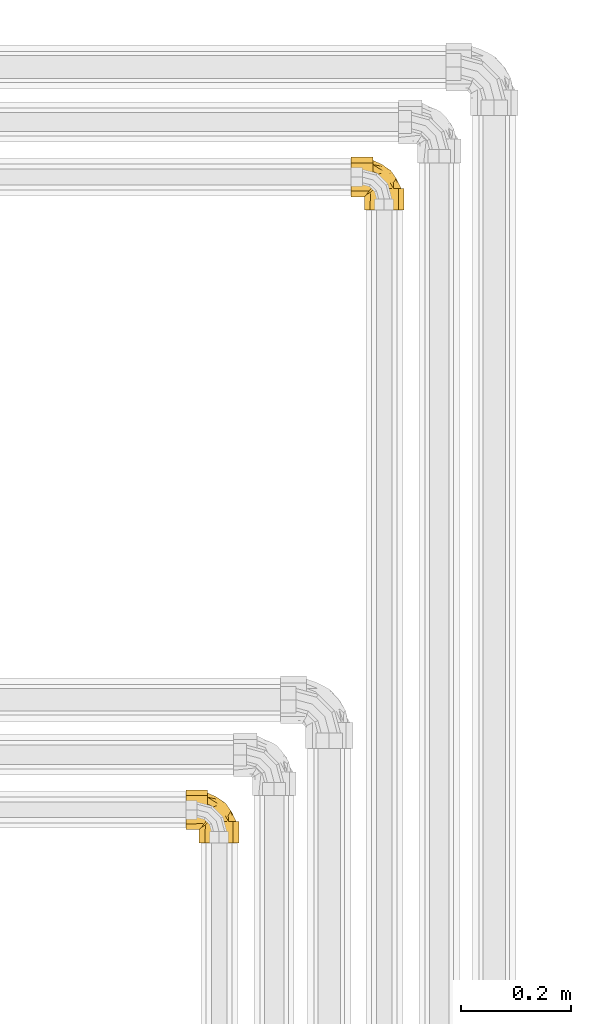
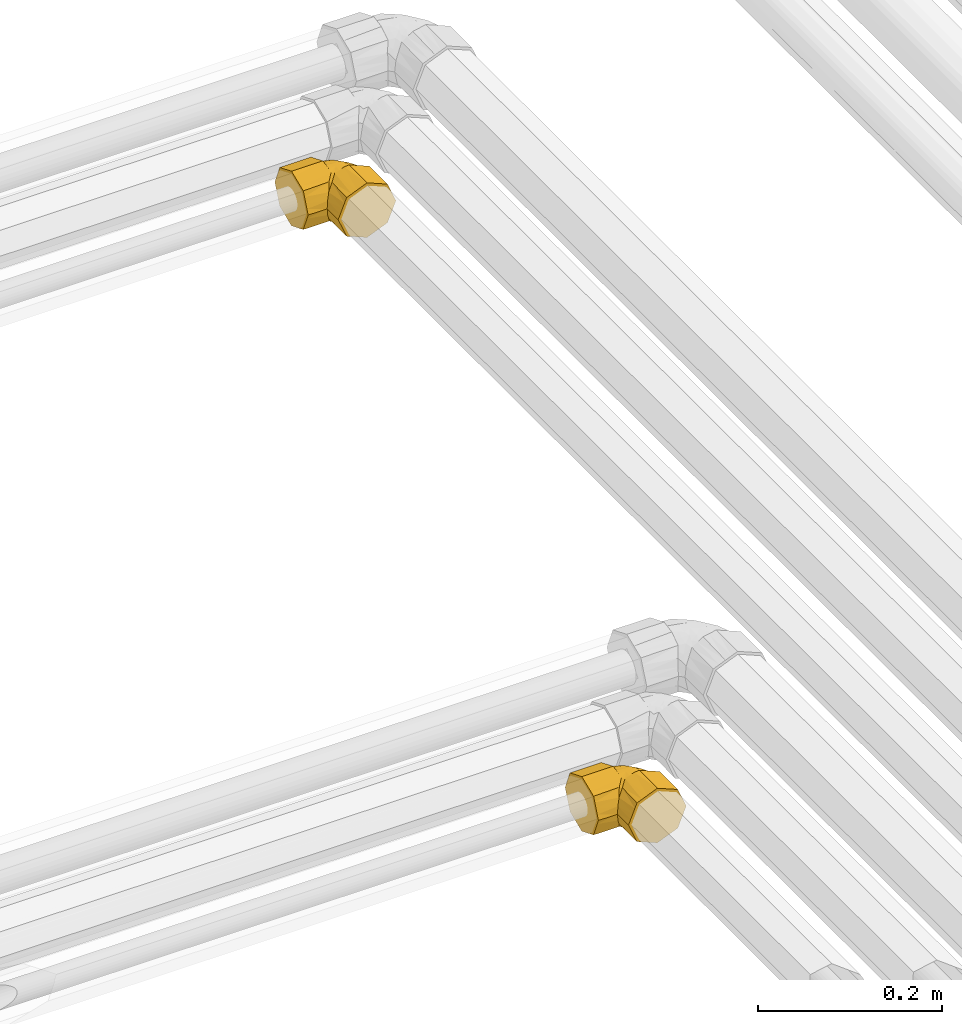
# One storey, part 261 of 652: 2 coverings.
"""IFC2X3 building model written with IfcOpenShell, lengths in millimetres."""

from ifc_helpers import new_model, entity, si_unit, converted_unit, direction, frame, origin, place, context, subcontext, project, spatial, faceted_brep, material, type_object, element, save


model = new_model("IFC2X3")

# Units and contexts
model_context = context("Model", 3, precision=0.01, world=frame((0.0, 0.0, 308426.39999999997)), true_north=direction((6.123233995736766e-17, 1.0)))
plan_context = context("Plan", 3, precision=0.01, world=frame((0.0, 0.0, 308426.39999999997)), true_north=direction((6.123233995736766e-17, 1.0)))
body_context = subcontext(model_context, "Body", "Model", "MODEL_VIEW")
ifc_project = project(units=[si_unit("LENGTHUNIT", "METRE", prefix="MILLI"), si_unit("AREAUNIT", "SQUARE_METRE"), si_unit("VOLUMEUNIT", "CUBIC_METRE"), converted_unit("PLANEANGLEUNIT", "DEGREE", entity("IfcPlaneAngleMeasure", 0.017453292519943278), si_unit("PLANEANGLEUNIT", "RADIAN"), dimensions=[0, 0, 0, 0, 0, 0, 0])], contexts=[model_context, plan_context])

# Site, building, storey
site_placement = place(None, origin())
site = spatial("IfcSite", under=ifc_project, at=site_placement, Name="Default", CompositionType="ELEMENT")
building_placement = place(site_placement, origin())
building = spatial("IfcBuilding", under=site, at=building_placement, CompositionType="ELEMENT")
storey_placement = place(building_placement, frame((0.0, 0.0, 1730.6999999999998)))
storey = spatial("IfcBuildingStorey", under=building, at=storey_placement, Name="EG_Produktion_FFB", CompositionType="ELEMENT", Elevation=1730.6999999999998)

# Coverings
ifc_material = material(Name="Dämmung - Armaflex-Schlauch")
covering_type = type_object("IfcCoveringType", Name="Rohrdämmung außen:Armaflex-Schlauch", PredefinedType="INSULATION")
covering_1_placement = place(storey_placement, frame((76719.94925000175, 60839.94924999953, 3862.2027277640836)))
element("IfcCovering", 1, at=covering_1_placement, inside=storey, type_object=covering_type, material=ifc_material, Name="Rohrdämmung außen:Armaflex-Schlauch", ObjectType="Rohrdämmung außen:Armaflex-Schlauch", PredefinedType="INSULATION", context=body_context, shape_type="Brep", body=[
    faceted_brep([(47.84268255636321, 39.259249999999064, 3.7157832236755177), (42.20950377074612, 39.259249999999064, 6.2968795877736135), (48.65740674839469, 39.259249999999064, 4.9882123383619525), (55.22156502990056, 39.259249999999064, 4.509772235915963), (62.98224402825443, 39.259249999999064, 7.878988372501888), (70.74292302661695, 39.259249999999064, 11.248204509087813), (76.76873209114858, 39.259249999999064, 13.864245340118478), (82.79454115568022, 39.259249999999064, 16.48028617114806), (86.80982431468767, 39.259249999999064, 27.138779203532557), (90.8251074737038, 39.259249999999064, 37.797272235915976), (87.38848086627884, 39.259249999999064, 44.42687530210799), (83.95185425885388, 39.259249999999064, 51.0564783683), (80.51522765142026, 39.259249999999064, 57.68608143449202), (77.07860104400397, 39.259249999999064, 64.31568450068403), (70.25921848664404, 39.259249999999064, 66.42763594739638), (63.439835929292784, 39.259249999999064, 68.53958739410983), (55.22156502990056, 39.259249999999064, 71.08477223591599), (48.65740674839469, 39.259249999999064, 70.60633213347), (42.20950377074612, 39.259249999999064, 69.29766488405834), (53.8441619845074, 39.259249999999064, 73.46326541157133), (60.05075000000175, 39.259249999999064, 73.99927223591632), (67.66113964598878, 39.259249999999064, 70.84694562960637), (72.85008984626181, 39.259249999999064, 68.69761208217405), (79.24975976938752, 39.2592499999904, 66.04678200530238), (85.64942969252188, 39.259249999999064, 63.39595192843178), (88.30025976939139, 39.259249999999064, 56.99628200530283), (90.95108984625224, 39.259249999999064, 50.59661208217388), (93.60191992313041, 39.259249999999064, 44.19694215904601), (96.25274999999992, 39.259249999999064, 37.797272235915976), (93.1004233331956, 39.259249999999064, 30.18688244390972), (90.95108984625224, 39.259249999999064, 24.99793238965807), (88.30025976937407, 39.259249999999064, 18.598262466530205), (85.64942969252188, 39.259249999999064, 12.198592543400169), (79.24975976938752, 39.259249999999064, 9.547762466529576), (72.85008984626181, 39.259249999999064, 6.896932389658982), (66.45041992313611, 39.259249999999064, 4.246102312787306), (60.05075000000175, 39.259249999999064, 1.595272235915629), (34.452070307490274, 0.0, 63.39595192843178), (31.801240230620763, 0.0, 56.99628200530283), (29.150410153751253, 0.0, 50.59661208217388), (26.499580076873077, 0.0, 44.19694215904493), (23.848750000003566, 0.0, 37.797272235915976), (26.499580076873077, 0.0, 31.397602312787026), (29.150410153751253, 0.0, 24.99793238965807), (31.801240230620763, 0.0, 18.59826246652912), (34.452070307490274, 0.0, 12.198592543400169), (40.851740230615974, 0.0, 9.547762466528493), (47.25141015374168, 0.0, 6.896932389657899), (53.65108007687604, 0.0, 4.246102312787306), (60.05075000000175, 0.0, 1.595272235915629), (66.45041992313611, 0.0, 4.246102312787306), (72.85008984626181, 0.0, 6.896932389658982), (79.24975976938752, 0.0, 9.547762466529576), (85.64942969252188, 0.0, 12.198592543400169), (89.94809634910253, 0.0, 22.576491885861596), (93.10042317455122, 0.0, 30.186882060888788), (96.25274999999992, 0.0, 37.797272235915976), (93.60191992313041, 0.0, 44.19694215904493), (90.95108984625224, 0.0, 50.59661208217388), (88.30025976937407, 0.0, 56.99628200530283), (85.64942969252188, 0.0, 63.39595192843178), (75.27153027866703, 0.0, 67.69461861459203), (67.66114013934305, 0.0, 70.84694542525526), (60.05075000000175, 0.0, 73.99927223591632), (53.65108007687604, 0.0, 71.34844215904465), (47.25141015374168, 0.0, 68.69761208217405), (40.851740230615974, 0.0, 66.04678200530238), (34.91818234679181, 32.46668914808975, 63.853727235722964), (25.075941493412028, 25.075941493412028, 47.143264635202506), (28.426678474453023, 28.426678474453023, 55.41836482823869), (23.848750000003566, 23.848750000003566, 37.797272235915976), (34.91818234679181, 32.46668914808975, 11.74081723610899), (25.075941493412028, 25.075941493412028, 28.451279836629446), (28.426678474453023, 28.426678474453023, 20.176179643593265), (39.259249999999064, 60.05075000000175, 1.595272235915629), (39.25925000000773, 67.66113984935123, 4.747598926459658), (39.259249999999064, 72.85008984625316, 6.896932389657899), (39.2592499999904, 79.24975976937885, 9.547762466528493), (39.259249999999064, 85.64942969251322, 12.198592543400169), (39.259249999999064, 88.30025976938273, 18.59826246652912), (39.259249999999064, 90.9510898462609, 24.99793238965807), (39.259249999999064, 93.60191992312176, 31.397602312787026), (39.259249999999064, 96.25274999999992, 37.797272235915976), (39.259249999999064, 93.10042349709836, 45.40766163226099), (39.259249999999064, 90.9510898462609, 50.59661208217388), (39.259249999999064, 88.30025976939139, 56.99628200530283), (39.259249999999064, 85.64942969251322, 63.39595192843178), (39.259249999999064, 79.24975976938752, 66.04678200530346), (39.259249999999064, 72.85008984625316, 68.69761208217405), (39.259249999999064, 66.45041992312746, 71.34844215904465), (39.259249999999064, 60.05075000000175, 73.99927223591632), (39.259249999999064, 47.8439605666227, 71.8792190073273), (39.259249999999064, 42.20950377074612, 69.29766488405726), (39.259249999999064, 48.65740674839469, 70.60633213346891), (39.259249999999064, 55.22156502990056, 71.08477223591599), (39.2592499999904, 62.98153911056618, 67.71445911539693), (39.25925000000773, 70.74151319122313, 64.34414599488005), (39.259249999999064, 76.77152019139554, 61.72519243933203), (39.259249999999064, 82.80152719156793, 59.10623888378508), (39.259249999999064, 86.8133173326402, 48.451755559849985), (39.259249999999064, 90.82510747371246, 37.797272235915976), (39.259249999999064, 87.38600173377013, 31.165885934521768), (39.25925000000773, 83.94689599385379, 24.53449963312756), (39.2592499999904, 80.50779025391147, 17.903113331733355), (39.259249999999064, 77.0686845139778, 11.271727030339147), (39.259249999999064, 70.25457765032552, 9.162676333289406), (39.25925000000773, 63.440470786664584, 7.053625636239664), (39.259249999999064, 55.22156502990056, 4.509772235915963), (39.259249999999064, 48.65740674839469, 4.988212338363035), (39.259249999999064, 42.20950377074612, 6.296879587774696), (39.259249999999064, 53.84468293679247, 2.1311884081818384), (0.0, 85.64942969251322, 63.39595192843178), (0.0, 89.94809658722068, 53.01805201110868), (0.0, 93.10042329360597, 45.40766212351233), (0.0, 96.25274999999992, 37.797272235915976), (0.0, 93.60191992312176, 31.397602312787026), (0.0, 90.9510898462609, 24.99793238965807), (0.0, 88.30025976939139, 18.59826246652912), (0.0, 85.64942969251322, 12.198592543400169), (0.0, 75.2715303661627, 7.899925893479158), (0.0, 67.66114018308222, 4.747599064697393), (0.0, 60.05075000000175, 1.595272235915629), (0.0, 53.65108007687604, 4.246102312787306), (0.0, 47.25141015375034, 6.896932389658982), (0.0, 40.851740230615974, 9.547762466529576), (0.0, 34.45207030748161, 12.198592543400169), (0.0, 31.801240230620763, 18.598262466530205), (0.0, 29.150410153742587, 24.99793238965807), (0.0, 26.499580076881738, 31.397602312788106), (0.0, 23.848750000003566, 37.797272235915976), (0.0, 26.499580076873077, 44.19694215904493), (0.0, 29.150410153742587, 50.59661208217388), (0.0, 31.801240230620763, 56.99628200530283), (0.0, 34.45207030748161, 63.39595192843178), (0.0, 40.851740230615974, 66.04678200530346), (0.0, 47.25141015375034, 68.69761208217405), (0.0, 53.65108007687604, 71.34844215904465), (0.0, 60.05075000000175, 73.99927223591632), (0.0, 66.45041992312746, 71.34844215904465), (0.0, 72.85008984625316, 68.69761208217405), (0.0, 79.24975976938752, 66.04678200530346), (32.46931160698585, 34.92195481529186, 63.857365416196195), (32.46931160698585, 34.92195481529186, 11.737179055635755), (64.47336868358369, 49.210183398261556, 68.41675007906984), (53.54260043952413, 54.63531521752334, 70.09494488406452), (48.39608948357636, 48.39608948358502, 71.08477223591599), (51.69618600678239, 43.978455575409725, 71.08477223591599), (43.978455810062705, 51.69618583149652, 71.08477223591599), (49.26703766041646, 65.06955237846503, 68.18497914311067), (70.8833285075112, 66.1494084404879, 54.93584498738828), (80.75349698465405, 58.59034686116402, 47.557895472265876), (68.06292306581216, 73.81910229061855, 46.969712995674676), (76.4287553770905, 49.86476535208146, 61.16915130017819), (68.9353156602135, 59.52853294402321, 62.09740281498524), (70.34021869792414, 50.389767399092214, 65.36649404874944), (56.04623238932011, 79.53115199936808, 53.32066831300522), (56.37699654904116, 72.05314656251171, 61.519468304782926), (54.931846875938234, 67.4364402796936, 65.29725071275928), (79.8641062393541, 53.71476365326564, 54.895502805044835), (55.68952897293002, 83.0503859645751, 45.82149324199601), (71.93390646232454, 71.9339064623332, 37.797272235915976), (82.58887454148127, 53.504828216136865, 37.797272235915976), (53.50482934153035, 82.58887389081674, 37.797272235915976), (59.635312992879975, 59.256858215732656, 67.18830204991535), (48.39608948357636, 48.39608948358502, 4.509772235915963), (51.69618600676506, 43.97845557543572, 4.509772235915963), (43.97845581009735, 51.69618583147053, 4.509772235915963), (54.64187234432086, 53.536207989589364, 5.499665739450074), (59.532384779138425, 68.93208500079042, 13.497052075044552), (72.055892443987, 56.377531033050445, 14.077594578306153), (67.43859640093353, 54.931613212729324, 10.29838444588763), (66.13891003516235, 70.89302392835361, 20.658922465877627), (79.54021097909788, 56.04646412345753, 22.288823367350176), (73.80443609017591, 68.07919867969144, 28.624479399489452), (83.03128998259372, 55.729373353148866, 29.784989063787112), (65.06981549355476, 49.26685337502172, 7.409619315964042), (58.572069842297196, 80.76404119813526, 28.033804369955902), (49.861777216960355, 76.4220800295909, 14.41799363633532), (50.38826994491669, 70.3405712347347, 10.227732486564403), (53.706335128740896, 79.86412378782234, 20.692178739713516), (49.211823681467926, 64.46975673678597, 7.176889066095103), (59.257135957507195, 59.635610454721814, 8.406458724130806)], [[[0, 1, 2, 3, 4, 5, 6, 7, 8, 9, 10, 11, 12, 13, 14, 15, 16, 17, 18, 19, 20, 21, 22, 23, 24, 25, 26, 27, 28, 29, 30, 31, 32, 33, 34, 35, 36]], [[37, 38, 39, 40, 41, 42, 43, 44, 45, 46, 47, 48, 49, 50, 51, 52, 53, 54, 55, 56, 57, 58, 59, 60, 61, 62, 63, 64, 65, 66]], [[38, 37, 67]], [[66, 67, 37]], [[67, 66, 18]], [[68, 39, 69]], [[69, 39, 38]], [[69, 38, 67]], [[65, 19, 18]], [[20, 19, 63]], [[40, 70, 41]], [[19, 65, 64, 63]], [[40, 39, 68]], [[70, 40, 68]], [[66, 65, 18]], [[63, 62, 61, 60, 24, 23, 22, 21, 20]], [[24, 60, 59, 58, 57, 56, 28, 27, 26, 25]], [[29, 28, 56, 55, 54, 53, 32, 31, 30]], [[32, 53, 52, 51, 50, 49, 36, 35, 34, 33]], [[71, 1, 46]], [[0, 47, 1]], [[1, 47, 46]], [[72, 43, 42]], [[71, 46, 45]], [[44, 71, 45]], [[36, 48, 0]], [[70, 42, 41]], [[48, 47, 0]], [[73, 43, 72]], [[71, 44, 73]], [[42, 70, 72]], [[48, 36, 49]], [[44, 43, 73]], [[74, 75, 76, 77, 78, 79, 80, 81, 82, 83, 84, 85, 86, 87, 88, 89, 90, 91, 92, 93, 94, 95, 96, 97, 98, 99, 100, 101, 102, 103, 104, 105, 106, 107, 108, 109, 110]], [[111, 112, 113, 114, 115, 116, 117, 118, 119, 120, 121, 122, 123, 124, 125, 126, 127, 128, 129, 130, 131, 132, 133, 134, 135, 136, 137, 138, 139, 140]], [[114, 113, 112, 111, 86, 85, 84, 83, 82]], [[86, 111, 140, 139, 138, 137, 90, 89, 88, 87]], [[141, 92, 134]], [[91, 135, 92]], [[68, 131, 130]], [[134, 133, 141]], [[132, 141, 133]], [[136, 135, 91]], [[90, 136, 91]], [[70, 130, 129]], [[136, 90, 137]], [[69, 131, 68]], [[141, 132, 69]], [[130, 70, 68]], [[92, 135, 134]], [[132, 131, 69]], [[126, 125, 142]], [[124, 142, 125]], [[142, 124, 109]], [[72, 127, 73]], [[73, 127, 126]], [[73, 126, 142]], [[123, 110, 109]], [[74, 110, 121]], [[128, 70, 129]], [[110, 123, 122, 121]], [[128, 127, 72]], [[70, 128, 72]], [[124, 123, 109]], [[75, 74, 121, 120, 119, 118, 78, 77, 76]], [[78, 118, 117, 116, 115, 114, 82, 81, 80, 79]], [[15, 143, 144]], [[144, 145, 146, 16]], [[144, 94, 147, 145]], [[96, 95, 148]], [[149, 150, 151]], [[152, 153, 154]], [[149, 155, 156]], [[153, 156, 157]], [[152, 158, 153]], [[16, 15, 144]], [[151, 159, 155]], [[96, 148, 157]], [[151, 155, 149]], [[153, 149, 156]], [[156, 97, 157]], [[160, 159, 151]], [[98, 156, 155]], [[99, 98, 155]], [[160, 150, 161]], [[99, 159, 100]], [[159, 160, 162, 100]], [[160, 151, 150]], [[150, 11, 10]], [[150, 149, 158]], [[10, 161, 150]], [[9, 161, 10]], [[99, 155, 159]], [[143, 15, 14]], [[152, 13, 12]], [[158, 12, 11]], [[150, 158, 11]], [[153, 158, 149]], [[158, 152, 12]], [[154, 163, 143]], [[154, 143, 14]], [[154, 13, 152]], [[143, 163, 144]], [[148, 144, 163]], [[94, 144, 95]], [[154, 14, 13]], [[163, 154, 153]], [[144, 148, 95]], [[157, 148, 163]], [[153, 157, 163]], [[156, 98, 97]], [[96, 157, 97]], [[18, 17, 145]], [[67, 141, 69]], [[141, 67, 18]], [[17, 16, 146, 145]], [[147, 94, 93, 145]], [[141, 18, 92]], [[93, 92, 145]], [[92, 18, 145]], [[164, 1, 109]], [[2, 164, 165, 3]], [[164, 2, 1]], [[1, 71, 142]], [[142, 109, 1]], [[108, 107, 166, 164]], [[108, 164, 109]], [[142, 71, 73]], [[107, 106, 167]], [[168, 169, 170]], [[171, 172, 169]], [[173, 172, 171]], [[167, 164, 166, 107]], [[173, 174, 172]], [[175, 170, 5]], [[168, 171, 169]], [[167, 3, 165, 164]], [[176, 173, 171]], [[177, 168, 178]], [[5, 4, 175]], [[177, 179, 168]], [[106, 180, 167]], [[169, 6, 170]], [[160, 174, 173]], [[7, 169, 172]], [[8, 7, 172]], [[160, 176, 162]], [[8, 174, 9]], [[174, 160, 161, 9]], [[160, 173, 176]], [[176, 102, 101]], [[176, 171, 179]], [[101, 162, 176]], [[100, 162, 101]], [[8, 172, 174]], [[180, 106, 105]], [[177, 104, 103]], [[179, 103, 102]], [[176, 179, 102]], [[168, 179, 171]], [[179, 177, 103]], [[178, 181, 180]], [[178, 180, 105]], [[178, 104, 177]], [[180, 181, 167]], [[175, 167, 181]], [[3, 167, 4]], [[178, 105, 104]], [[181, 178, 168]], [[167, 175, 4]], [[170, 175, 181]], [[168, 170, 181]], [[169, 7, 6]], [[5, 170, 6]]]),
])
covering_2_placement = place(storey_placement, frame((76419.94925000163, 59689.94924999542, 3862.2027277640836)))
element("IfcCovering", 2, at=covering_2_placement, inside=storey, type_object=covering_type, material=ifc_material, Name="Rohrdämmung außen:Armaflex-Schlauch", ObjectType="Rohrdämmung außen:Armaflex-Schlauch", PredefinedType="INSULATION", context=body_context, shape_type="Brep", body=[
    faceted_brep([(47.84396056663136, 39.259249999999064, 3.715325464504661), (42.20950377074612, 39.259249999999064, 6.2968795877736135), (48.65740674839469, 39.259249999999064, 4.9882123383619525), (55.22156502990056, 39.259249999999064, 4.509772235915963), (62.98224402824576, 39.259249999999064, 7.878988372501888), (70.7429230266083, 39.259249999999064, 11.248204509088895), (76.76873209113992, 39.259249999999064, 13.864245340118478), (82.79454115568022, 39.259249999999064, 16.48028617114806), (86.80982431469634, 39.259249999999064, 27.138779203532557), (90.8251074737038, 39.259249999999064, 37.797272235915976), (87.38600173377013, 39.259249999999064, 44.428658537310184), (83.94689599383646, 39.259249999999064, 51.06004483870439), (80.50779025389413, 39.259249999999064, 57.691431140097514), (77.06868451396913, 39.259249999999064, 64.32281744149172), (70.25457778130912, 39.259249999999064, 66.43186809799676), (63.44047104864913, 39.259249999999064, 68.54091875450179), (55.22156502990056, 39.259249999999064, 71.08477223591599), (48.65740674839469, 39.259249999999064, 70.60633213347), (42.20950377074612, 39.259249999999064, 69.29766488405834), (53.84468293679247, 39.259249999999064, 73.46335606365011), (60.05075000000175, 39.259249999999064, 73.99927223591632), (67.66113964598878, 39.259249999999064, 70.84694562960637), (72.85008984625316, 39.259249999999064, 68.69761208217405), (79.24975976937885, 39.259249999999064, 66.04678200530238), (85.64942969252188, 39.259249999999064, 63.39595192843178), (88.30025976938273, 39.259249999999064, 56.99628200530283), (90.9510898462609, 39.259249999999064, 50.59661208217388), (93.60191992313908, 39.259249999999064, 44.19694215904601), (96.25274999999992, 39.259249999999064, 37.797272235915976), (93.10042333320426, 39.259249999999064, 30.18688244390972), (90.95108984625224, 39.259249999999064, 24.99793238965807), (88.30025976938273, 39.259249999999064, 18.598262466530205), (85.64942969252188, 39.259249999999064, 12.198592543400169), (79.24975976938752, 39.259249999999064, 9.547762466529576), (72.85008984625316, 39.259249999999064, 6.896932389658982), (66.45041992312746, 39.259249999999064, 4.246102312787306), (60.05075000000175, 39.259249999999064, 1.595272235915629), (34.452070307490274, 0.0, 63.39595192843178), (31.801240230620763, 0.0, 56.99628200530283), (29.150410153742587, 0.0, 50.59661208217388), (26.499580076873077, 0.0, 44.19694215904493), (23.848750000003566, 0.0, 37.797272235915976), (26.499580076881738, 0.0, 31.397602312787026), (29.150410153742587, 0.0, 24.99793238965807), (31.801240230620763, 0.0, 18.59826246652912), (34.452070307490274, 0.0, 12.198592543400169), (40.851740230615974, 0.0, 9.547762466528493), (47.25141015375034, 0.0, 6.896932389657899), (53.65108007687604, 0.0, 4.246102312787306), (60.05075000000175, 0.0, 1.595272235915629), (66.45041992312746, 0.0, 4.246102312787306), (72.85008984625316, 0.0, 6.896932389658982), (79.24975976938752, 0.0, 9.547762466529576), (85.64942969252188, 0.0, 12.198592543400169), (89.94809634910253, 0.0, 22.576491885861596), (93.10042317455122, 0.0, 30.186882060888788), (96.25274999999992, 0.0, 37.797272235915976), (93.60191992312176, 0.0, 44.19694215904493), (90.95108984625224, 0.0, 50.59661208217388), (88.30025976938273, 0.0, 56.99628200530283), (85.64942969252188, 0.0, 63.39595192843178), (75.27153027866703, 0.0, 67.69461861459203), (67.66114013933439, 0.0, 70.84694542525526), (60.05075000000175, 0.0, 73.99927223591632), (53.65108007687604, 0.0, 71.34844215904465), (47.25141015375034, 0.0, 68.69761208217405), (40.851740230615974, 0.0, 66.04678200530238), (34.91818234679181, 32.46668914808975, 63.853727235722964), (25.075941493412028, 25.075941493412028, 47.143264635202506), (28.426678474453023, 28.426678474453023, 55.41836482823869), (23.848750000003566, 23.848750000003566, 37.797272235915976), (34.91818234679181, 32.46668914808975, 11.74081723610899), (25.075941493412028, 25.075941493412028, 28.451279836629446), (28.426678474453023, 28.426678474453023, 20.176179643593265), (39.259249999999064, 60.05075000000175, 1.595272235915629), (39.259249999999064, 67.66113984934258, 4.747598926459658), (39.259249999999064, 72.85008984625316, 6.896932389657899), (39.2592499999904, 79.24975976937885, 9.547762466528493), (39.259249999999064, 85.64942969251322, 12.198592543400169), (39.259249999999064, 88.30025976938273, 18.59826246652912), (39.259249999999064, 90.9510898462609, 24.99793238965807), (39.259249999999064, 93.60191992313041, 31.397602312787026), (39.259249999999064, 96.25274999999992, 37.797272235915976), (39.259249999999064, 93.10042349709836, 45.40766163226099), (39.259249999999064, 90.9510898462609, 50.59661208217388), (39.25925000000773, 88.30025976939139, 56.99628200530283), (39.259249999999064, 85.64942969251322, 63.39595192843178), (39.259249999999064, 79.24975976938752, 66.04678200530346), (39.259249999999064, 72.85008984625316, 68.69761208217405), (39.259249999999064, 66.45041992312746, 71.34844215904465), (39.259249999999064, 60.05075000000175, 73.99927223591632), (39.259249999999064, 47.8439605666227, 71.8792190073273), (39.259249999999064, 42.20950377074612, 69.29766488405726), (39.259249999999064, 48.65740674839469, 70.60633213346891), (39.259249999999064, 55.22156502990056, 71.08477223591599), (39.259249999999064, 62.98224379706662, 67.71555619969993), (39.259249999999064, 70.74292256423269, 64.34634016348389), (39.259249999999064, 76.76873185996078, 61.73029923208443), (39.259249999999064, 82.79454115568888, 59.11425830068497), (39.259249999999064, 86.80982431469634, 48.455765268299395), (39.259249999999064, 90.82510747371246, 37.797272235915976), (39.259249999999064, 87.38600173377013, 31.165885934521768), (39.259249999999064, 83.94689599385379, 24.53449963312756), (39.2592499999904, 80.50779025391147, 17.903113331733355), (39.259249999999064, 77.0686845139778, 11.271727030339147), (39.259249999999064, 70.25457765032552, 9.162676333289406), (39.259249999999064, 63.440470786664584, 7.053625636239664), (39.259249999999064, 55.22156502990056, 4.509772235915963), (39.259249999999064, 48.65740674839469, 4.988212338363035), (39.259249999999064, 42.20950377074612, 6.296879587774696), (39.259249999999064, 53.84468293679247, 2.1311884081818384), (0.0, 85.64942969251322, 63.39595192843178), (0.0, 89.94809658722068, 53.01805201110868), (0.0, 93.10042329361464, 45.40766212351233), (0.0, 96.25274999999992, 37.797272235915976), (0.0, 93.60191992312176, 31.397602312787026), (0.0, 90.9510898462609, 24.99793238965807), (0.0, 88.30025976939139, 18.59826246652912), (0.0, 85.64942969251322, 12.198592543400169), (0.0, 75.27153036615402, 7.899925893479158), (0.0, 67.66114018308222, 4.747599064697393), (0.0, 60.05075000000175, 1.595272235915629), (0.0, 53.65108007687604, 4.246102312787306), (0.0, 47.25141015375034, 6.896932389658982), (0.0, 40.851740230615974, 9.547762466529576), (0.0, 34.45207030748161, 12.198592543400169), (0.0, 31.801240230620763, 18.598262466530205), (0.0, 29.150410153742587, 24.99793238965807), (0.0, 26.499580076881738, 31.397602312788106), (0.0, 23.848750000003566, 37.797272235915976), (0.0, 26.499580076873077, 44.19694215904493), (0.0, 29.150410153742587, 50.59661208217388), (0.0, 31.801240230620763, 56.99628200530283), (0.0, 34.45207030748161, 63.39595192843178), (0.0, 40.851740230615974, 66.04678200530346), (0.0, 47.25141015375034, 68.69761208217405), (0.0, 53.65108007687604, 71.34844215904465), (0.0, 60.05075000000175, 73.99927223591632), (0.0, 66.45041992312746, 71.34844215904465), (0.0, 72.85008984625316, 68.69761208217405), (0.0, 79.24975976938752, 66.04678200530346), (32.46931160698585, 34.92195481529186, 63.857365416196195), (32.46931160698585, 34.92195481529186, 11.737179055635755), (64.46975709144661, 49.21182308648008, 68.41765541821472), (53.53620771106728, 54.64187267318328, 70.09487872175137), (48.39608948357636, 48.39608948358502, 71.08477223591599), (51.69618600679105, 43.978455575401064, 71.08477223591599), (43.97845581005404, 51.69618583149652, 71.08477223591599), (49.266854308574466, 65.06981473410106, 68.18492521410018), (70.89302761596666, 66.1389061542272, 54.935621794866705), (80.76404412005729, 58.572064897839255, 47.560740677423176), (68.07920285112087, 73.80443236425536, 46.97006507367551), (76.42208115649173, 49.861775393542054, 61.17655068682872), (68.93208707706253, 59.53238264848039, 62.097492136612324), (70.34057210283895, 50.388268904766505, 65.36681184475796), (56.04646872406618, 79.54020807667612, 53.305721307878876), (56.37753332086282, 72.0558906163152, 61.516950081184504), (54.93161477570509, 67.43859512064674, 65.29616009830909), (79.8641260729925, 53.70633184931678, 54.902365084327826), (55.72937800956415, 83.03128765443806, 45.809554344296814), (71.93390646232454, 71.9339064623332, 37.797272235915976), (82.58887454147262, 53.504828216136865, 37.797272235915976), (53.50482934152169, 82.58887389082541, 37.797272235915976), (59.635611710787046, 59.25713481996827, 67.18808569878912), (48.39608948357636, 48.39608948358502, 4.509772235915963), (51.6961860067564, 43.978455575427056, 4.509772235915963), (43.97845581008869, 51.69618583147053, 4.509772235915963), (54.64187234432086, 53.536207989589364, 5.499665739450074), (59.532384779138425, 68.93208500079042, 13.497052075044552), (72.055892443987, 56.377531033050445, 14.077594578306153), (67.43859640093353, 54.931613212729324, 10.29838444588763), (66.13891003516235, 70.89302392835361, 20.658922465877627), (79.54021097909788, 56.04646412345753, 22.28882336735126), (73.80443609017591, 68.07919867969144, 28.624479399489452), (83.03128998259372, 55.729373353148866, 29.784989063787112), (65.06981549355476, 49.26685337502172, 7.409619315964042), (58.572069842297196, 80.76404119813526, 28.033804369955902), (49.861777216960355, 76.4220800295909, 14.41799363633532), (50.38826994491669, 70.3405712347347, 10.227732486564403), (53.706335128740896, 79.86412378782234, 20.692178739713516), (49.211823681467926, 64.46975673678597, 7.176889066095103), (59.257135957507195, 59.635610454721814, 8.406458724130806)], [[[0, 1, 2, 3, 4, 5, 6, 7, 8, 9, 10, 11, 12, 13, 14, 15, 16, 17, 18, 19, 20, 21, 22, 23, 24, 25, 26, 27, 28, 29, 30, 31, 32, 33, 34, 35, 36]], [[37, 38, 39, 40, 41, 42, 43, 44, 45, 46, 47, 48, 49, 50, 51, 52, 53, 54, 55, 56, 57, 58, 59, 60, 61, 62, 63, 64, 65, 66]], [[38, 37, 67]], [[66, 67, 37]], [[67, 66, 18]], [[68, 39, 69]], [[69, 39, 38]], [[69, 38, 67]], [[65, 19, 18]], [[20, 19, 63]], [[40, 70, 41]], [[19, 65, 64, 63]], [[40, 39, 68]], [[70, 40, 68]], [[66, 65, 18]], [[63, 62, 61, 60, 24, 23, 22, 21, 20]], [[24, 60, 59, 58, 57, 56, 28, 27, 26, 25]], [[29, 28, 56, 55, 54, 53, 32, 31, 30]], [[32, 53, 52, 51, 50, 49, 36, 35, 34, 33]], [[71, 1, 46]], [[0, 47, 1]], [[1, 47, 46]], [[72, 43, 42]], [[71, 46, 45]], [[44, 71, 45]], [[36, 48, 0]], [[70, 42, 41]], [[48, 47, 0]], [[73, 43, 72]], [[71, 44, 73]], [[42, 70, 72]], [[48, 36, 49]], [[44, 43, 73]], [[74, 75, 76, 77, 78, 79, 80, 81, 82, 83, 84, 85, 86, 87, 88, 89, 90, 91, 92, 93, 94, 95, 96, 97, 98, 99, 100, 101, 102, 103, 104, 105, 106, 107, 108, 109, 110]], [[111, 112, 113, 114, 115, 116, 117, 118, 119, 120, 121, 122, 123, 124, 125, 126, 127, 128, 129, 130, 131, 132, 133, 134, 135, 136, 137, 138, 139, 140]], [[114, 113, 112, 111, 86, 85, 84, 83, 82]], [[86, 111, 140, 139, 138, 137, 90, 89, 88, 87]], [[141, 92, 134]], [[91, 135, 92]], [[68, 131, 130]], [[134, 133, 141]], [[132, 141, 133]], [[136, 135, 91]], [[90, 136, 91]], [[70, 130, 129]], [[136, 90, 137]], [[69, 131, 68]], [[141, 132, 69]], [[130, 70, 68]], [[92, 135, 134]], [[132, 131, 69]], [[126, 125, 142]], [[124, 142, 125]], [[142, 124, 109]], [[72, 127, 73]], [[73, 127, 126]], [[73, 126, 142]], [[123, 110, 109]], [[74, 110, 121]], [[128, 70, 129]], [[110, 123, 122, 121]], [[128, 127, 72]], [[70, 128, 72]], [[124, 123, 109]], [[75, 74, 121, 120, 119, 118, 78, 77, 76]], [[78, 118, 117, 116, 115, 114, 82, 81, 80, 79]], [[15, 143, 144]], [[144, 145, 146, 16]], [[144, 94, 147, 145]], [[96, 95, 148]], [[149, 150, 151]], [[152, 153, 154]], [[149, 155, 156]], [[153, 156, 157]], [[152, 158, 153]], [[16, 15, 144]], [[151, 159, 155]], [[96, 148, 157]], [[151, 155, 149]], [[153, 149, 156]], [[156, 97, 157]], [[160, 159, 151]], [[98, 156, 155]], [[99, 98, 155]], [[160, 150, 161]], [[99, 159, 100]], [[159, 160, 162, 100]], [[160, 151, 150]], [[150, 11, 10]], [[150, 149, 158]], [[10, 161, 150]], [[9, 161, 10]], [[99, 155, 159]], [[143, 15, 14]], [[152, 13, 12]], [[158, 12, 11]], [[150, 158, 11]], [[153, 158, 149]], [[158, 152, 12]], [[154, 163, 143]], [[154, 143, 14]], [[154, 13, 152]], [[143, 163, 144]], [[148, 144, 163]], [[94, 144, 95]], [[154, 14, 13]], [[163, 154, 153]], [[144, 148, 95]], [[157, 148, 163]], [[153, 157, 163]], [[156, 98, 97]], [[96, 157, 97]], [[18, 17, 145]], [[67, 141, 69]], [[141, 67, 18]], [[17, 16, 146, 145]], [[147, 94, 93, 145]], [[141, 18, 92]], [[93, 92, 145]], [[92, 18, 145]], [[164, 1, 109]], [[2, 164, 165, 3]], [[164, 2, 1]], [[1, 71, 142]], [[142, 109, 1]], [[108, 107, 166, 164]], [[108, 164, 109]], [[142, 71, 73]], [[107, 106, 167]], [[168, 169, 170]], [[171, 172, 169]], [[173, 172, 171]], [[167, 164, 166, 107]], [[173, 174, 172]], [[175, 170, 5]], [[168, 171, 169]], [[167, 3, 165, 164]], [[176, 173, 171]], [[177, 168, 178]], [[5, 4, 175]], [[177, 179, 168]], [[106, 180, 167]], [[169, 6, 170]], [[160, 174, 173]], [[7, 169, 172]], [[8, 7, 172]], [[160, 176, 162]], [[8, 174, 9]], [[174, 160, 161, 9]], [[160, 173, 176]], [[176, 102, 101]], [[176, 171, 179]], [[101, 162, 176]], [[100, 162, 101]], [[8, 172, 174]], [[180, 106, 105]], [[177, 104, 103]], [[179, 103, 102]], [[176, 179, 102]], [[168, 179, 171]], [[179, 177, 103]], [[178, 181, 180]], [[178, 180, 105]], [[178, 104, 177]], [[180, 181, 167]], [[175, 167, 181]], [[3, 167, 4]], [[178, 105, 104]], [[181, 178, 168]], [[167, 175, 4]], [[170, 175, 181]], [[168, 170, 181]], [[169, 7, 6]], [[5, 170, 6]]]),
])

save(model, "model.ifc")
